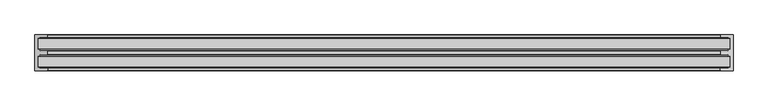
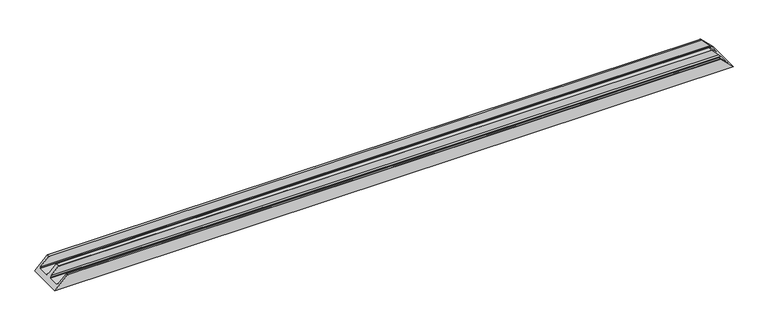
"""IFC4 building model written with IfcOpenShell, lengths in millimetres: proxy geometry, Weiku - Montante - Caixilho duplo 02.3.02.409 : Weiku - Montante - Caixilho duplo 02.3.02.409."""

from ifc_helpers import new_model, si_unit, frame, origin, place, context, project, spatial, ellipse_curve, source, transform, mapped, element, save
from ifc_brep_helpers import plane_surface, cylinder_surface, advanced_brep


def generic_models_3eebc571(model_context):
    return source(origin(), model_context, "Body", "AdvancedBrep", [
        advanced_brep(
        [(-1510.0, -9.8, 18.2), (1510.0, -9.8, 18.2), (1472.3, -9.8, 55.9), (-1472.3, -9.8, 55.9), (-1512.5000079, -63.85, 15.6999921), (1512.5000079, -63.85, 15.6999921), (1512.5000079, -15.05, 15.6999921), (-1512.5000079, -15.05, 15.6999921), (-1472.3000055, -69.1, 55.8999945), (1472.3000055, -69.1, 55.8999945), (1504.3700642, -69.1, 23.8299358), (-1504.3700642, -69.1, 23.8299358), (-1471.8000055, -86.65, 56.3999945), (1471.8000055, -86.65, 56.3999945), (1471.8000055, -69.6, 56.3999945), (-1471.8000055, -69.6, 56.3999945), (-1504.4236827, -87.15, 23.7763173), (1504.4236827, -87.15, 23.7763173), (1472.3000055, -87.15, 55.8999945), (-1472.3000055, -87.15, 55.8999945), (-1528.2, -156.2000166, 0.0), (-1528.2, 0.0, 0.0), (1528.2, 0.0, 0.0), (1528.2, -156.2000166, 0.0), (-1472.3, 0.0, 55.9), (1472.3, 0.0, 55.9), (-1471.8, -9.3, 56.4), (1471.8, -9.3, 56.4), (1471.8, -0.5, 56.4), (-1471.8, -0.5, 56.4), (-1472.3, -156.2000166, 55.9), (-1471.8, -155.7000166, 56.4), (-1471.8, -146.9000166, 56.4), (-1472.3, -146.4000166, 55.9), (-1510.0, -146.4000166, 18.2), (-1510.0, -141.1500166, 18.2), (-1512.5000079, -141.1500166, 15.6999921), (-1512.5000079, -92.3500166, 15.6999921), (-1510.0000178, -92.3500166, 18.1999822), (-1510.0, -63.85, 18.2), (-1510.0, -15.05, 18.2), (1510.0, -15.05, 18.2), (1510.0, -63.85, 18.2), (1510.0000178, -92.3500166, 18.1999822), (1512.5000079, -92.3500166, 15.6999921), (1512.5000079, -141.1500166, 15.6999921), (1510.0, -141.1500166, 18.2), (1510.0, -146.4000166, 18.2), (1472.3, -146.4000166, 55.9), (1471.8, -146.9000166, 56.4), (1471.8, -155.7000166, 56.4), (1472.3, -156.2000166, 55.9)],
        [
            (0, 1),
            (1, 2),
            (2, 3),
            (3, 0),
            (4, 5),
            (5, 6),
            (6, 7),
            (7, 4),
            (8, 9),
            (9, 10),
            (10, 11),
            (11, 8),
            (12, 13),
            (13, 14),
            (14, 15),
            (15, 12),
            (16, 17),
            (17, 18),
            (18, 19),
            (19, 16),
            (20, 21),
            (21, 22),
            (22, 23),
            (23, 20),
            (21, 24),
            (24, 25),
            (25, 22),
            (26, 27),
            (27, 28),
            (28, 29),
            (29, 26),
            (3, 26, ellipse_curve(frame((-1472.3, -9.3, 55.9), z_axis=(-0.7071067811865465, 0.0, 0.7071067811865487), x_axis=(-0.7071067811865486, 0.0, -0.7071067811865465)), 0.7071068, 0.5)),
            (29, 24, ellipse_curve(frame((-1472.3, -0.5, 55.9), z_axis=(-0.7071067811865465, 0.0, 0.7071067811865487), x_axis=(-0.7071067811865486, 0.0, -0.7071067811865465)), 0.7071068, 0.5)),
            (20, 30),
            (30, 31, ellipse_curve(frame((-1472.3, -155.7000166, 55.9), z_axis=(-0.7071067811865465, 0.0, 0.7071067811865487), x_axis=(-0.7071067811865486, 0.0, -0.7071067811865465)), 0.7071068, 0.5)),
            (31, 32),
            (32, 33, ellipse_curve(frame((-1472.3, -146.9000166, 55.9), z_axis=(-0.7071067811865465, 0.0, 0.7071067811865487), x_axis=(-0.7071067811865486, 0.0, -0.7071067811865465)), 0.7071068, 0.5)),
            (33, 34),
            (34, 35),
            (35, 36),
            (36, 37),
            (37, 38),
            (38, 16),
            (19, 12, ellipse_curve(frame((-1472.3000055, -86.65, 55.8999945), z_axis=(-0.7071067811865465, 0.0, 0.7071067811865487), x_axis=(-0.7071067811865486, 0.0, -0.7071067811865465)), 0.7071068, 0.5)),
            (15, 8, ellipse_curve(frame((-1472.3000055, -69.6, 55.8999945), z_axis=(-0.7071067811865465, 0.0, 0.7071067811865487), x_axis=(-0.7071067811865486, 0.0, -0.7071067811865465)), 0.7071068, 0.5)),
            (11, 39),
            (39, 4),
            (7, 40),
            (40, 0),
            (1, 41),
            (41, 6),
            (5, 42),
            (42, 10),
            (9, 14, ellipse_curve(frame((1472.3000055, -69.6, 55.8999945), z_axis=(0.7071067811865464, 0.0, 0.7071067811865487), x_axis=(-0.7071067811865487, 0.0, 0.7071067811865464)), 0.7071068, 0.5)),
            (13, 18, ellipse_curve(frame((1472.3000055, -86.65, 55.8999945), z_axis=(0.7071067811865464, 0.0, 0.7071067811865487), x_axis=(-0.7071067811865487, 0.0, 0.7071067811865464)), 0.7071068, 0.5)),
            (17, 43),
            (43, 44),
            (44, 45),
            (45, 46),
            (46, 47),
            (47, 48),
            (48, 49, ellipse_curve(frame((1472.3, -146.9000166, 55.9), z_axis=(0.7071067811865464, 0.0, 0.7071067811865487), x_axis=(-0.7071067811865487, 0.0, 0.7071067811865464)), 0.7071068, 0.5)),
            (49, 50),
            (50, 51, ellipse_curve(frame((1472.3, -155.7000166, 55.9), z_axis=(0.7071067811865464, 0.0, 0.7071067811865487), x_axis=(-0.7071067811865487, 0.0, 0.7071067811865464)), 0.7071068, 0.5)),
            (51, 23),
            (25, 28, ellipse_curve(frame((1472.3, -0.5, 55.9), z_axis=(0.7071067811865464, 0.0, 0.7071067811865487), x_axis=(-0.7071067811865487, 0.0, 0.7071067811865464)), 0.7071068, 0.5)),
            (27, 2, ellipse_curve(frame((1472.3, -9.3, 55.9), z_axis=(0.7071067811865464, 0.0, 0.7071067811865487), x_axis=(-0.7071067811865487, 0.0, 0.7071067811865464)), 0.7071068, 0.5)),
            (40, 41),
            (39, 42),
            (38, 43),
            (37, 44),
            (36, 45),
            (35, 46),
            (34, 47),
            (33, 48),
            (31, 50),
            (49, 32),
            (30, 51),
        ],
        [
            plane_surface(frame((-1528.2, -9.8, 55.9), z_axis=(0.0, -1.0, 0.0), x_axis=(1.0, 0.0, 0.0))),
            plane_surface(frame((-1528.2, -15.05, 15.6999921), z_axis=(0.0, 0.0, 1.0), x_axis=(1.0, 0.0, 0.0))),
            plane_surface(frame((-1528.2, -69.1, 23.8299358), z_axis=(0.0, 1.0, 0.0), x_axis=(1.0, 0.0, 0.0))),
            plane_surface(frame((-1528.2, -69.6, 56.3999945), z_axis=(0.0, 0.0, 1.0), x_axis=(1.0, 0.0, 0.0))),
            plane_surface(frame((-1528.2, -87.15, 55.8999945), z_axis=(0.0, -1.0, 0.0), x_axis=(1.0, 0.0, 0.0))),
            plane_surface(frame((-1528.2, -156.2000166, 0.0), z_axis=(0.0, 0.0, -1.0), x_axis=(1.0, 0.0, 0.0))),
            plane_surface(frame((-1528.2, 0.0, 0.0), z_axis=(0.0, 1.0, 0.0), x_axis=(1.0, 0.0, 0.0))),
            plane_surface(frame((-1528.2, -0.5, 56.4), z_axis=(0.0, 0.0, 1.0), x_axis=(1.0, 0.0, 0.0))),
            plane_surface(frame((-1528.2, 0.0, 0.0), z_axis=(-0.7071067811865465, 0.0, 0.7071067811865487), x_axis=(0.0, -1.0, 0.0))),
            plane_surface(frame((1468.2, 0.0, 60.0), z_axis=(0.7071067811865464, 0.0, 0.7071067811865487), x_axis=(0.0, -1.0, 0.0))),
            plane_surface(frame((-1528.2, -9.8, 18.2), z_axis=(0.0, 0.0, 1.0), x_axis=(1.0, 0.0, 0.0))),
            plane_surface(frame((-1528.2, -15.05, 18.2), z_axis=(0.0, -1.0, 0.0), x_axis=(1.0, 0.0, 0.0))),
            plane_surface(frame((-1528.2, -63.85, 15.6999921), z_axis=(0.0, 1.0, 0.0), x_axis=(1.0, 0.0, 0.0))),
            plane_surface(frame((-1528.2, -63.85, 18.2), z_axis=(0.0, 0.7313537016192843, 0.6819983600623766), x_axis=(1.0, 0.0, 0.0))),
            cylinder_surface(frame((-1528.2, -86.65, 55.8999945), z_axis=(-1.0, 0.0, 0.0), x_axis=(0.0, -1.0, 0.0)), 0.5),
            cylinder_surface(frame((-1528.2, -0.5, 55.9), z_axis=(-1.0, 0.0, 0.0), x_axis=(0.0, -1.0, 0.0)), 0.5),
            plane_surface(frame((-1528.2, -87.15, 23.7763173), z_axis=(0.0, -0.7313537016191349, 0.6819983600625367), x_axis=(1.0, 0.0, 0.0))),
            plane_surface(frame((-1528.2, -92.3500166, 18.1999822), z_axis=(0.0, -1.0, 0.0), x_axis=(1.0, 0.0, 0.0))),
            plane_surface(frame((-1528.2, -92.3500166, 15.6999921), z_axis=(0.0, 0.0, 1.0), x_axis=(1.0, 0.0, 0.0))),
            plane_surface(frame((-1528.2, -141.1500166, 15.6999921), z_axis=(0.0, 1.0, 0.0), x_axis=(1.0, 0.0, 0.0))),
            plane_surface(frame((-1528.2, -141.1500166, 18.2), z_axis=(0.0, 0.0, 1.0), x_axis=(1.0, 0.0, 0.0))),
            plane_surface(frame((-1528.2, -146.4000166, 18.2), z_axis=(0.0, 1.0, 0.0), x_axis=(1.0, 0.0, 0.0))),
            plane_surface(frame((-1528.2, -146.9000166, 56.4), z_axis=(0.0, 0.0, 1.0), x_axis=(1.0, 0.0, 0.0))),
            cylinder_surface(frame((-1528.2, -155.7000166, 55.9), z_axis=(-1.0, 0.0, 0.0), x_axis=(0.0, 1.0, 0.0)), 0.5),
            plane_surface(frame((-1528.2, -156.2000166, 55.9), z_axis=(0.0, -1.0, 0.0), x_axis=(1.0, 0.0, 0.0))),
            cylinder_surface(frame((-1528.2, -9.3, 55.9), z_axis=(-1.0, 0.0, 0.0), x_axis=(0.0, -1.0, 0.0)), 0.5),
            cylinder_surface(frame((-1528.2, -69.6, 55.8999945), z_axis=(-1.0, 0.0, 0.0), x_axis=(0.0, -1.0, 0.0)), 0.5),
            cylinder_surface(frame((-1528.2, -146.9000166, 55.9), z_axis=(-1.0, 0.0, 0.0), x_axis=(0.0, -1.0, 0.0)), 0.5),
        ],
        [
            (0, [[1, 2, 3, 4]]),
            (1, [[5, 6, 7, 8]]),
            (2, [[9, 10, 11, 12]]),
            (3, [[13, 14, 15, 16]]),
            (4, [[17, 18, 19, 20]]),
            (5, [[21, 22, 23, 24]]),
            (6, [[25, 26, 27, -22]]),
            (7, [[28, 29, 30, 31]]),
            (8, [[32, -31, 33, -25, -21, 34, 35, 36, 37, 38, 39, 40, 41, 42, 43, -20, 44, -16, 45, -12, 46, 47, -8, 48, 49, -4]]),
            (9, [[50, 51, -6, 52, 53, -10, 54, -14, 55, -18, 56, 57, 58, 59, 60, 61, 62, 63, 64, 65, -23, -27, 66, -29, 67, -2]]),
            (10, [[68, -50, -1, -49]]),
            (11, [[-7, -51, -68, -48]]),
            (12, [[69, -52, -5, -47]]),
            (13, [[-11, -53, -69, -46]]),
            (14, [[-19, -55, -13, -44]]),
            (15, [[-30, -66, -26, -33]]),
            (16, [[70, -56, -17, -43]]),
            (17, [[71, -57, -70, -42]]),
            (18, [[72, -58, -71, -41]]),
            (19, [[73, -59, -72, -40]]),
            (20, [[74, -60, -73, -39]]),
            (21, [[75, -61, -74, -38]]),
            (22, [[76, -63, 77, -36]]),
            (23, [[78, -64, -76, -35]]),
            (24, [[-65, -78, -34, -24]]),
            (25, [[-3, -67, -28, -32]]),
            (26, [[-15, -54, -9, -45]]),
            (27, [[-77, -62, -75, -37]]),
        ],
    ),
    ])


if __name__ == "__main__":
    model = new_model("IFC4")
    model_context = context("Model", 3, world=origin())
    ifc_project = project(units=[si_unit("LENGTHUNIT", "METRE", prefix="MILLI")], contexts=[model_context])
    site = spatial("IfcSite", under=ifc_project)
    building = spatial("IfcBuilding", under=site)
    placement = place(None, origin())
    generic_models_shape = generic_models_3eebc571(model_context)
    element("IfcBuildingElementProxy", 1, Name="Weiku - Montante - Caixilho duplo 02.3.02.409 : Weiku - Montante - Caixilho duplo 02.3.02.409", ObjectType="Weiku - Montante - Caixilho duplo 02.3.02.409 : Weiku - Montante - Caixilho duplo 02.3.02.409", at=placement, inside=building, context=model_context, shape_type="MappedRepresentation", body=[
        mapped(generic_models_shape, transform((0.0, 0.0, 0.0), x_axis=(1.0, 0.0, 0.0), y_axis=(0.0, 1.0, 0.0), z_axis=(0.0, 0.0, 1.0))),
    ])
    save(model, "model.ifc")
